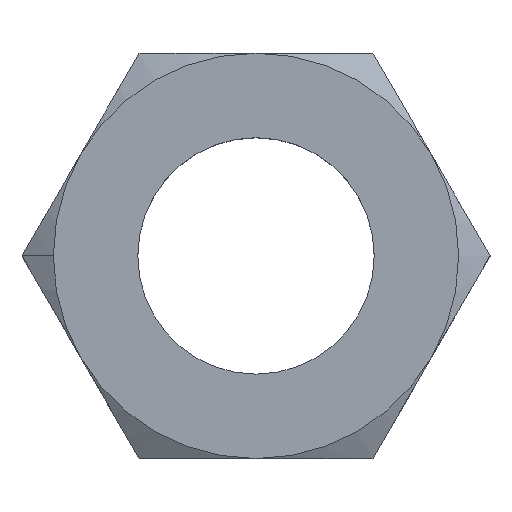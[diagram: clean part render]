
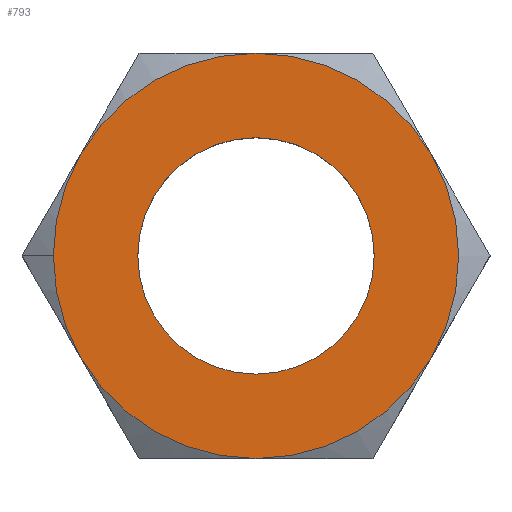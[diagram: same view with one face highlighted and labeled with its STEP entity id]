
A CAD part, top view. The second image highlights one B-rep face of the part: STEP entity #793.
In plain terms, the highlighted planar face has unit normal (0, 0, 1).
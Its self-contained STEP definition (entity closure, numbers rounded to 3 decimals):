
#11 = ORIENTED_EDGE ( 'NONE', *, *, #673, .F. ) ;
#47 = VERTEX_POINT ( 'NONE', #126 ) ;
#52 = VERTEX_POINT ( 'NONE', #196 ) ;
#57 = VERTEX_POINT ( 'NONE', #178 ) ;
#115 = DIRECTION ( 'NONE',  ( 0., 0., 1. ) ) ;
#116 = CARTESIAN_POINT ( 'NONE',  ( 0., 0., 10. ) ) ;
#117 = AXIS2_PLACEMENT_3D ( 'NONE', #116, #115, #197 ) ;
#126 = CARTESIAN_POINT ( 'NONE',  ( 0., 15., 10. ) ) ;
#128 = CIRCLE ( 'NONE', #117, 8.75 ) ;
#178 = CARTESIAN_POINT ( 'NONE',  ( 12.99, 7.5, 10. ) ) ;
#196 = CARTESIAN_POINT ( 'NONE',  ( 12.99, -7.5, 10. ) ) ;
#197 = DIRECTION ( 'NONE',  ( 1., 0., 0. ) ) ;
#198 = CARTESIAN_POINT ( 'NONE',  ( -8.75, 0., 10. ) ) ;
#305 = CARTESIAN_POINT ( 'NONE',  ( 8.75, 0., 10. ) ) ;
#312 = CARTESIAN_POINT ( 'NONE',  ( 0., -15., 10. ) ) ;
#421 = CARTESIAN_POINT ( 'NONE',  ( 0., 0., 10. ) ) ;
#422 = CIRCLE ( 'NONE', #438, 15. ) ;
#437 = DIRECTION ( 'NONE',  ( 1., 0., 0. ) ) ;
#438 = AXIS2_PLACEMENT_3D ( 'NONE', #421, #541, #437 ) ;
#462 = DIRECTION ( 'NONE',  ( 1., 0., 0. ) ) ;
#463 = DIRECTION ( 'NONE',  ( 1., 0., 0. ) ) ;
#464 = DIRECTION ( 'NONE',  ( 0., 0., -1. ) ) ;
#465 = CARTESIAN_POINT ( 'NONE',  ( 0., 0., 10. ) ) ;
#466 = AXIS2_PLACEMENT_3D ( 'NONE', #465, #464, #463 ) ;
#471 = CIRCLE ( 'NONE', #542, 15. ) ;
#472 = CARTESIAN_POINT ( 'NONE',  ( -15., 0., 10. ) ) ;
#474 = CARTESIAN_POINT ( 'NONE',  ( -12.99, -7.5, 10. ) ) ;
#475 = DIRECTION ( 'NONE',  ( 1., 0., 0. ) ) ;
#476 = DIRECTION ( 'NONE',  ( 0., 0., -1. ) ) ;
#477 = CARTESIAN_POINT ( 'NONE',  ( 0., 0., 10. ) ) ;
#478 = AXIS2_PLACEMENT_3D ( 'NONE', #477, #476, #475 ) ;
#479 = CIRCLE ( 'NONE', #478, 15. ) ;
#482 = DIRECTION ( 'NONE',  ( 1., 0., 0. ) ) ;
#483 = DIRECTION ( 'NONE',  ( 0., 0., 1. ) ) ;
#484 = CARTESIAN_POINT ( 'NONE',  ( 0., 0., 10. ) ) ;
#485 = DIRECTION ( 'NONE',  ( 1., 0., 0. ) ) ;
#486 = DIRECTION ( 'NONE',  ( 0., 0., -1. ) ) ;
#487 = CARTESIAN_POINT ( 'NONE',  ( 0., 0., 10. ) ) ;
#488 = AXIS2_PLACEMENT_3D ( 'NONE', #487, #486, #485 ) ;
#489 = CIRCLE ( 'NONE', #488, 15. ) ;
#494 = DIRECTION ( 'NONE',  ( 1., 0., 0. ) ) ;
#495 = DIRECTION ( 'NONE',  ( 0., 0., 1. ) ) ;
#502 = CIRCLE ( 'NONE', #503, 8.75 ) ;
#503 = AXIS2_PLACEMENT_3D ( 'NONE', #484, #483, #482 ) ;
#520 = CARTESIAN_POINT ( 'NONE',  ( -12.99, 7.5, 10. ) ) ;
#521 = CARTESIAN_POINT ( 'NONE',  ( 0., 0., 10. ) ) ;
#522 = PLANE ( 'NONE',  #544 ) ;
#523 = DIRECTION ( 'NONE',  ( 1., 0., 0. ) ) ;
#524 = DIRECTION ( 'NONE',  ( 0., 0., -1. ) ) ;
#525 = CARTESIAN_POINT ( 'NONE',  ( 0., 0., 10. ) ) ;
#526 = AXIS2_PLACEMENT_3D ( 'NONE', #525, #524, #523 ) ;
#528 = CIRCLE ( 'NONE', #526, 15. ) ;
#541 = DIRECTION ( 'NONE',  ( 0., 0., -1. ) ) ;
#542 = AXIS2_PLACEMENT_3D ( 'NONE', #554, #551, #462 ) ;
#543 = CARTESIAN_POINT ( 'NONE',  ( 8.66, -15., 10. ) ) ;
#544 = AXIS2_PLACEMENT_3D ( 'NONE', #543, #495, #494 ) ;
#545 = FACE_BOUND ( 'NONE', #772, .T. ) ;
#546 = FACE_OUTER_BOUND ( 'NONE', #792, .T. ) ;
#547 = DIRECTION ( 'NONE',  ( -1., 0., 0. ) ) ;
#548 = DIRECTION ( 'NONE',  ( 0., 0., -1. ) ) ;
#549 = AXIS2_PLACEMENT_3D ( 'NONE', #521, #548, #547 ) ;
#550 = CIRCLE ( 'NONE', #549, 15. ) ;
#551 = DIRECTION ( 'NONE',  ( 0., 0., -1. ) ) ;
#553 = CIRCLE ( 'NONE', #466, 15. ) ;
#554 = CARTESIAN_POINT ( 'NONE',  ( 0., 0., 10. ) ) ;
#671 = VERTEX_POINT ( 'NONE', #198 ) ;
#673 = EDGE_CURVE ( 'NONE', #671, #674, #128, .T. ) ;
#674 = VERTEX_POINT ( 'NONE', #305 ) ;
#751 = VERTEX_POINT ( 'NONE', #312 ) ;
#769 = ORIENTED_EDGE ( 'NONE', *, *, #770, .F. ) ;
#770 = EDGE_CURVE ( 'NONE', #57, #52, #471, .T. ) ;
#771 = EDGE_CURVE ( 'NONE', #751, #810, #422, .T. ) ;
#772 = EDGE_LOOP ( 'NONE', ( #773, #11 ) ) ;
#773 = ORIENTED_EDGE ( 'NONE', *, *, #828, .F. ) ;
#775 = ORIENTED_EDGE ( 'NONE', *, *, #776, .F. ) ;
#776 = EDGE_CURVE ( 'NONE', #811, #822, #553, .T. ) ;
#777 = ORIENTED_EDGE ( 'NONE', *, *, #808, .F. ) ;
#778 = ORIENTED_EDGE ( 'NONE', *, *, #771, .F. ) ;
#784 = ORIENTED_EDGE ( 'NONE', *, *, #820, .F. ) ;
#788 = ORIENTED_EDGE ( 'NONE', *, *, #789, .F. ) ;
#789 = EDGE_CURVE ( 'NONE', #47, #57, #528, .T. ) ;
#790 = ORIENTED_EDGE ( 'NONE', *, *, #791, .F. ) ;
#791 = EDGE_CURVE ( 'NONE', #822, #47, #550, .T. ) ;
#792 = EDGE_LOOP ( 'NONE', ( #784, #769, #788, #790, #775, #777, #778 ) ) ;
#793 = ADVANCED_FACE ( 'NONE', ( #546, #545 ), #522, .T. ) ;
#808 = EDGE_CURVE ( 'NONE', #810, #811, #479, .T. ) ;
#810 = VERTEX_POINT ( 'NONE', #474 ) ;
#811 = VERTEX_POINT ( 'NONE', #472 ) ;
#820 = EDGE_CURVE ( 'NONE', #52, #751, #489, .T. ) ;
#822 = VERTEX_POINT ( 'NONE', #520 ) ;
#828 = EDGE_CURVE ( 'NONE', #674, #671, #502, .T. ) ;
